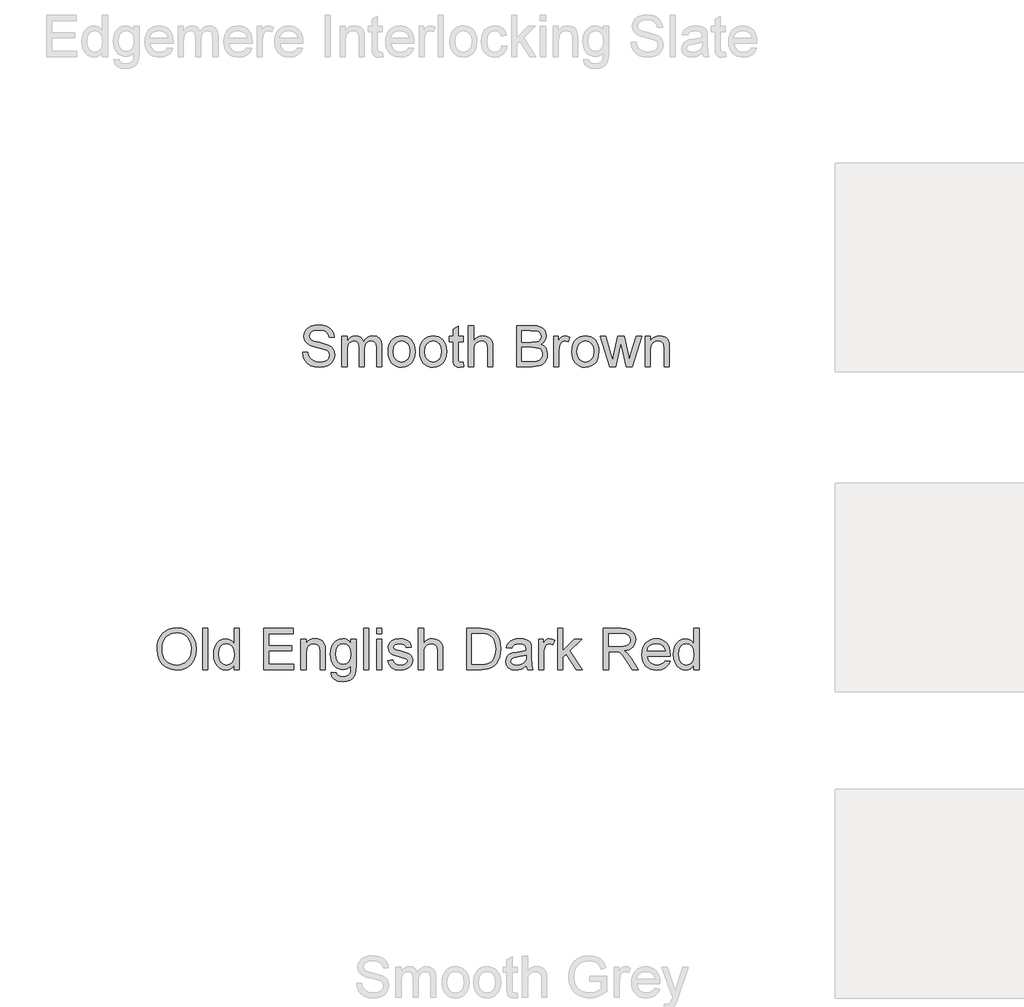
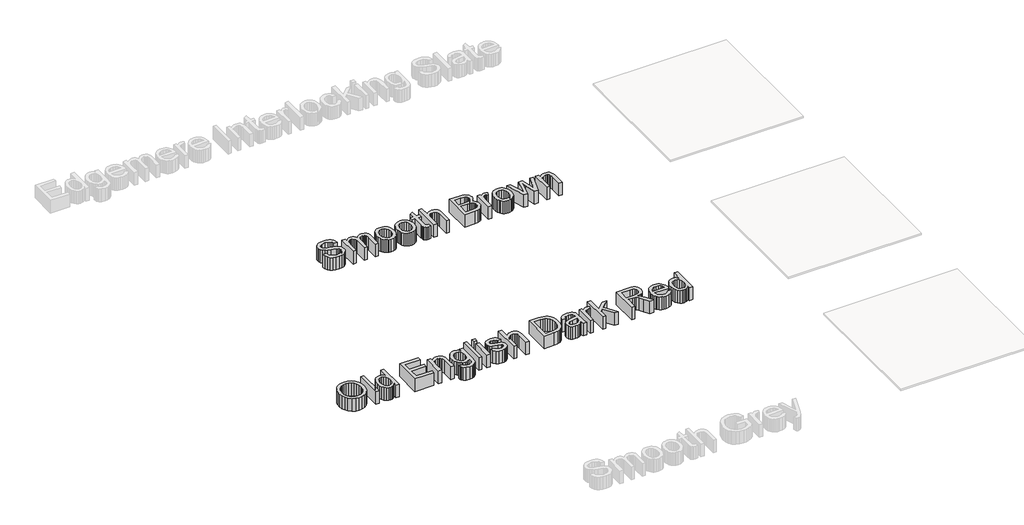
# One storey, part 2 of 8: 2 proxies.
"""IFC4 building model written with IfcOpenShell, lengths in millimetres."""

from ifc_helpers import new_model, si_unit, frame, origin, place, context, project, spatial, polyline, outline, extrude, element, save

model = new_model("IFC4")

# Units and contexts
model_context = context("Model", 3, world=origin())
ifc_project = project(units=[si_unit("LENGTHUNIT", "METRE", prefix="MILLI")], contexts=[model_context])

# Site, building, storey
site = spatial("IfcSite", under=ifc_project)
building = spatial("IfcBuilding", under=site)
storey = spatial("IfcBuildingStorey", under=building, Name="Marley Concrete Interlocking Tiles", Elevation=3000.0)

# Proxies
placement = place(None, origin())
element("IfcBuildingElementProxy", 1, Name="600mm Arial", ObjectType="600mm Arial", at=placement, inside=storey, context=model_context, shape_type="SweptSolid", body=[
    extrude(outline(polyline([(-14553.237659, 3230.5032727), (-14516.3145821, 3230.5032727), (-14512.0778033, 3210.013489), (-14504.4155436, 3193.5441381), (-14492.4624186, 3180.4732246), (-14475.3530436, 3170.1787535), (-14454.4395821, 3163.499066), (-14431.0741975, 3161.2725035), (-14410.503284, 3162.9582006), (-14392.4924667, 3168.0152919), (-14377.8981158, 3176.0200996), (-14367.5766013, 3186.5489458), (-14361.4377792, 3198.6372871), (-14359.3915052, 3211.3205804), (-14360.9239571, 3223.6793544), (-14365.5213129, 3234.3614458), (-14374.8602552, 3243.4750275), (-14390.6174667, 3251.1282727), (-14444.379486, 3265.2268304), (-14479.6709523, 3274.5567583), (-14502.2520821, 3283.435965), (-14520.6324908, 3295.85784), (-14533.6583321, 3310.9119265), (-14541.4197504, 3328.2737054), (-14544.0068898, 3347.6186573), (-14540.8067696, 3369.2442583), (-14531.206409, 3389.4095227), (-14515.4582119, 3406.5008688), (-14493.8145821, 3418.904715), (-14467.8350148, 3426.4497871), (-14439.0790052, 3428.9648112), (-14407.925159, 3426.3325996), (-14380.6655436, 3418.435965), (-14358.2737167, 3405.4371669), (-14341.723236, 3387.498465), (-14331.2484763, 3365.7376477), (-14327.0838129, 3341.2725035), (-14364.0068898, 3341.2725035), (-14370.785736, 3363.3037535), (-14384.9203513, 3379.2051958), (-14407.0056879, 3388.8325996), (-14437.6366975, 3392.0417342), (-14468.988861, 3388.8686573), (-14490.4972744, 3379.3494265), (-14502.9371783, 3365.3410131), (-14507.0838129, 3348.7003881), (-14504.145111, 3334.5116862), (-14495.3290052, 3323.0994265), (-14474.487659, 3312.8950996), (-14435.0405436, 3302.4744265), (-14369.7040052, 3283.9407727), (-14348.6553273, 3270.54534), (-14333.9708321, 3254.0128881), (-14325.3440292, 3234.5237054), (-14322.4684283, 3212.2580804), (-14325.7767215, 3189.4966621), (-14335.7016013, 3168.0874073), (-14351.8374186, 3149.6619265), (-14373.7785244, 3135.8518304), (-14400.1637408, 3127.2250275), (-14429.6318898, 3124.3494265), (-14465.8067696, 3127.4503881), (-14495.581409, 3136.7532727), (-14519.2983561, 3152.2941381), (-14537.300159, 3174.1090419), (-14548.8566494, 3200.6835612), (-14553.237659, 3230.5032727)])), frame((0.0, 0.0, 3000.0), z_axis=(0.0, 0.0, 1.0), x_axis=(1.0, 0.0, 0.0)), (0.0, 0.0, 1.0), 150.0),
    extrude(outline(polyline([(-14271.6991975, 3128.9648112), (-14271.6991975, 3345.8878881), (-14234.7761206, 3345.8878881), (-14234.7761206, 3310.1907727), (-14223.6703513, 3326.5880083), (-14209.3915052, 3339.4335612), (-14192.426361, 3347.7358448), (-14173.2616975, 3350.5032727), (-14152.7268417, 3347.6817583), (-14136.2665052, 3339.217215), (-14123.9708321, 3325.6685371), (-14115.9299667, 3307.5946188), (-14102.4714331, 3326.3671549), (-14087.1198706, 3339.7761092), (-14069.8752792, 3347.8214818), (-14050.737659, 3350.5032727), (-14022.9822504, 3346.0411333), (-14002.456409, 3332.654715), (-13989.7731158, 3309.983441), (-13985.5453513, 3277.6667342), (-13985.5453513, 3128.9648112), (-14022.4684283, 3128.9648112), (-14022.4684283, 3261.8013496), (-14025.893909, 3292.6306765), (-14030.707611, 3301.1312775), (-14038.2977552, 3307.810965), (-14048.0603754, 3312.1378881), (-14059.3915052, 3313.5801958), (-14079.39451, 3309.8842823), (-14095.7016013, 3298.7965419), (-14106.5459523, 3279.5597631), (-14110.160736, 3251.4167342), (-14110.160736, 3128.9648112), (-14147.0838129, 3128.9648112), (-14147.0838129, 3265.9119265), (-14149.2202311, 3286.7893304), (-14155.629486, 3301.6811573), (-14166.9065292, 3310.6054362), (-14183.6463129, 3313.5801958), (-14197.8710725, 3311.5970227), (-14210.9780436, 3305.6475035), (-14221.7953513, 3295.8758688), (-14229.1511206, 3282.4263496), (-14233.3698706, 3263.7664938), (-14234.7761206, 3238.3638496), (-14234.7761206, 3128.9648112), (-14271.6991975, 3128.9648112)])), frame((0.0, 0.0, 3000.0), z_axis=(0.0, 0.0, 1.0), x_axis=(1.0, 0.0, 0.0)), (0.0, 0.0, 1.0), 150.0),
    extrude(outline(polyline([(-13939.3915052, 3237.4263496), (-13937.3948105, 3265.5197991), (-13931.4047263, 3289.7280323), (-13921.4212528, 3310.0510491), (-13907.4443898, 3326.4888496), (-13893.3728754, 3336.9951597), (-13877.8410244, 3344.4996669), (-13860.8488369, 3349.0023713), (-13842.3963129, 3350.5032727), (-13822.0259703, 3348.6755984), (-13803.6072504, 3343.1925756), (-13787.140153, 3334.0542042), (-13772.6246783, 3321.2604842), (-13760.7774727, 3305.244108), (-13752.3151831, 3286.4377679), (-13747.2378093, 3264.8414638), (-13745.5453513, 3240.4551958), (-13748.5381398, 3203.1535131), (-13757.5165052, 3174.7580804), (-13772.2190292, 3153.4930563), (-13792.3842936, 3137.5825996), (-13816.3356158, 3127.6577198), (-13842.3963129, 3124.3494265), (-13863.0641314, 3126.17034), (-13881.6541254, 3131.6330804), (-13898.1662948, 3140.7376477), (-13912.6006398, 3153.4840419), (-13924.3216434, 3169.6559169), (-13932.6937888, 3189.0369265), (-13937.7170761, 3211.6270708), (-13939.3915052, 3237.4263496)]), holes=[polyline([(-13902.4684283, 3237.498465), (-13898.1955917, 3204.0819987), (-13885.3770821, 3180.2749073), (-13866.0862167, 3166.0231044), (-13842.3963129, 3161.2725035), (-13818.8145821, 3166.0501477), (-13799.5597744, 3180.3830804), (-13786.7412648, 3204.5056765), (-13782.4684283, 3238.6523112), (-13786.7683081, 3271.0952198), (-13799.6679475, 3294.5777919), (-13818.9497985, 3308.8295948), (-13842.3963129, 3313.5801958), (-13866.0862167, 3308.8476237), (-13885.3770821, 3294.6499073), (-13898.1955917, 3270.8969025), (-13902.4684283, 3237.498465)])]), frame((0.0, 0.0, 3000.0), z_axis=(0.0, 0.0, 1.0), x_axis=(1.0, 0.0, 0.0)), (0.0, 0.0, 1.0), 150.0),
    extrude(outline(polyline([(-13713.237659, 3237.4263496), (-13711.2409643, 3265.5197991), (-13705.2508802, 3289.7280323), (-13695.2674066, 3310.0510491), (-13681.2905436, 3326.4888496), (-13667.2190292, 3336.9951597), (-13651.6871783, 3344.4996669), (-13634.6949908, 3349.0023713), (-13616.2424667, 3350.5032727), (-13595.8721242, 3348.6755984), (-13577.4534042, 3343.1925756), (-13560.9863069, 3334.0542042), (-13546.4708321, 3321.2604842), (-13534.6236266, 3305.244108), (-13526.1613369, 3286.4377679), (-13521.0839631, 3264.8414638), (-13519.3915052, 3240.4551958), (-13522.3842936, 3203.1535131), (-13531.362659, 3174.7580804), (-13546.0651831, 3153.4930563), (-13566.2304475, 3137.5825996), (-13590.1817696, 3127.6577198), (-13616.2424667, 3124.3494265), (-13636.9102852, 3126.17034), (-13655.5002792, 3131.6330804), (-13672.0124487, 3140.7376477), (-13686.4467936, 3153.4840419), (-13698.1677973, 3169.6559169), (-13706.5399427, 3189.0369265), (-13711.5632299, 3211.6270708), (-13713.237659, 3237.4263496)]), holes=[polyline([(-13676.3145821, 3237.498465), (-13672.0417456, 3204.0819987), (-13659.223236, 3180.2749073), (-13639.9323706, 3166.0231044), (-13616.2424667, 3161.2725035), (-13592.660736, 3166.0501477), (-13573.4059283, 3180.3830804), (-13560.5874186, 3204.5056765), (-13556.3145821, 3238.6523112), (-13560.6144619, 3271.0952198), (-13573.5141013, 3294.5777919), (-13592.7959523, 3308.8295948), (-13616.2424667, 3313.5801958), (-13639.9323706, 3308.8476237), (-13659.223236, 3294.6499073), (-13672.0417456, 3270.8969025), (-13676.3145821, 3237.498465)])]), frame((0.0, 0.0, 3000.0), z_axis=(0.0, 0.0, 1.0), x_axis=(1.0, 0.0, 0.0)), (0.0, 0.0, 1.0), 150.0),
    extrude(outline(polyline([(-13399.3915052, 3159.7580804), (-13394.7761206, 3127.8830804), (-13422.3963129, 3124.3494265), (-13440.1186686, 3125.8818785), (-13453.3338129, 3130.4792342), (-13462.6727552, 3137.5645708), (-13468.7665052, 3146.560965), (-13472.1198706, 3162.0116862), (-13473.237659, 3188.4600035), (-13473.237659, 3308.9648112), (-13500.9299667, 3308.9648112), (-13500.9299667, 3345.8878881), (-13473.237659, 3345.8878881), (-13473.237659, 3398.6042342), (-13436.3145821, 3420.310965), (-13436.3145821, 3345.8878881), (-13399.3915052, 3345.8878881), (-13399.3915052, 3308.9648112), (-13436.3145821, 3308.9648112), (-13436.3145821, 3189.5417342), (-13434.3674667, 3170.5032727), (-13428.0573706, 3163.7604842), (-13415.473236, 3161.2725035), (-13399.3915052, 3159.7580804)])), frame((0.0, 0.0, 3000.0), z_axis=(0.0, 0.0, 1.0), x_axis=(1.0, 0.0, 0.0)), (0.0, 0.0, 1.0), 150.0),
    extrude(outline(polyline([(-13362.4684283, 3128.9648112), (-13362.4684283, 3424.3494265), (-13325.5453513, 3424.3494265), (-13325.5453513, 3315.7436573), (-13311.9831518, 3330.950989), (-13296.753284, 3341.8133688), (-13279.855748, 3348.3307967), (-13261.2905436, 3350.5032727), (-13238.988861, 3348.1324794), (-13219.8241975, 3341.0200996), (-13204.7340533, 3329.7250275), (-13194.6559283, 3314.8061573), (-13188.9768417, 3294.3073592), (-13187.0838129, 3266.2725035), (-13187.0838129, 3128.9648112), (-13224.0068898, 3128.9648112), (-13224.0068898, 3262.4503881), (-13226.9455917, 3285.5633688), (-13235.7616975, 3301.3926958), (-13249.9684283, 3310.5333208), (-13269.0790052, 3313.5801958), (-13284.6829715, 3311.5249073), (-13299.331409, 3305.3590419), (-13311.4648225, 3295.6775515), (-13319.5237167, 3283.0753881), (-13324.0399427, 3266.32659), (-13325.5453513, 3244.2051958), (-13325.5453513, 3128.9648112), (-13362.4684283, 3128.9648112)])), frame((0.0, 0.0, 3000.0), z_axis=(0.0, 0.0, 1.0), x_axis=(1.0, 0.0, 0.0)), (0.0, 0.0, 1.0), 150.0),
    extrude(outline(polyline([(-13016.3145821, 3128.9648112), (-13016.3145821, 3424.3494265), (-12903.598236, 3424.3494265), (-12872.597635, 3422.1769506), (-12848.393909, 3415.6595227), (-12829.8422263, 3404.6348833), (-12815.7977552, 3388.9407727), (-12806.9546061, 3370.4792342), (-12804.0068898, 3351.1523112), (-12806.4858561, 3333.3668544), (-12813.9227552, 3316.6450996), (-12826.3716735, 3302.014691), (-12843.8866975, 3290.5032727), (-12822.9642215, 3279.5777919), (-12807.504486, 3262.9551958), (-12797.9582119, 3241.7352438), (-12794.7761206, 3217.0176958), (-12796.9485965, 3196.419739), (-12803.4660244, 3177.3181765), (-12813.1925869, 3161.0741862), (-12824.9924667, 3149.0489458), (-12839.4425869, 3140.3410131), (-12857.1198706, 3134.0489458), (-12904.4636206, 3128.9648112), (-13016.3145821, 3128.9648112)]), holes=[polyline([(-12979.3915052, 3165.8878881), (-12903.6703513, 3165.8878881), (-12876.2665052, 3167.3301958), (-12853.081409, 3175.3710612), (-12837.7208321, 3191.7773112), (-12833.2046061, 3203.3698592), (-12831.6991975, 3216.6571188), (-12833.4660244, 3232.0898112), (-12838.7665052, 3245.3590419), (-12848.0243177, 3255.7346429), (-12861.6631398, 3262.4864458), (-12880.9810485, 3266.1913737), (-12907.2761206, 3267.4263496), (-12979.3915052, 3267.4263496), (-12979.3915052, 3165.8878881)]), polyline([(-12979.3915052, 3304.3494265), (-12911.9636206, 3304.3494265), (-12872.5886206, 3307.5225035), (-12858.8055677, 3312.9942583), (-12848.8987167, 3321.1883688), (-12842.9221542, 3331.9786333), (-12840.9299667, 3345.2388496), (-12842.7869379, 3358.1114458), (-12848.3578513, 3369.3253881), (-12857.3903033, 3378.0783929), (-12869.6318898, 3383.5681765), (-12917.0838129, 3387.4263496), (-12979.3915052, 3387.4263496), (-12979.3915052, 3304.3494265)])]), frame((0.0, 0.0, 3000.0), z_axis=(0.0, 0.0, 1.0), x_axis=(1.0, 0.0, 0.0)), (0.0, 0.0, 1.0), 150.0),
    extrude(outline(polyline([(-12748.6222744, 3128.9648112), (-12748.6222744, 3345.8878881), (-12716.3145821, 3345.8878881), (-12716.3145821, 3313.7965419), (-12704.379486, 3332.4023112), (-12693.3818898, 3343.3638496), (-12682.348236, 3348.7184169), (-12670.3049667, 3350.5032727), (-12651.9155436, 3347.654715), (-12633.237659, 3339.1090419), (-12645.5693898, 3306.0080804), (-12658.550159, 3311.6871669), (-12671.5309283, 3313.5801958), (-12682.5555677, 3311.7592823), (-12692.4083321, 3306.2965419), (-12700.3680677, 3297.6066381), (-12705.7136206, 3286.1042342), (-12710.2028033, 3265.4792342), (-12711.6991975, 3242.9792342), (-12711.6991975, 3128.9648112), (-12748.6222744, 3128.9648112)])), frame((0.0, 0.0, 3000.0), z_axis=(0.0, 0.0, 1.0), x_axis=(1.0, 0.0, 0.0)), (0.0, 0.0, 1.0), 150.0),
    extrude(outline(polyline([(-12619.3915052, 3237.4263496), (-12617.3948105, 3265.5197991), (-12611.4047263, 3289.7280323), (-12601.4212528, 3310.0510491), (-12587.4443898, 3326.4888496), (-12573.3728754, 3336.9951597), (-12557.8410244, 3344.4996669), (-12540.8488369, 3349.0023713), (-12522.3963129, 3350.5032727), (-12502.0259703, 3348.6755984), (-12483.6072504, 3343.1925756), (-12467.140153, 3334.0542042), (-12452.6246783, 3321.2604842), (-12440.7774727, 3305.244108), (-12432.3151831, 3286.4377679), (-12427.2378093, 3264.8414638), (-12425.5453513, 3240.4551958), (-12428.5381398, 3203.1535131), (-12437.5165052, 3174.7580804), (-12452.2190292, 3153.4930563), (-12472.3842936, 3137.5825996), (-12496.3356158, 3127.6577198), (-12522.3963129, 3124.3494265), (-12543.0641314, 3126.17034), (-12561.6541254, 3131.6330804), (-12578.1662948, 3140.7376477), (-12592.6006398, 3153.4840419), (-12604.3216434, 3169.6559169), (-12612.6937888, 3189.0369265), (-12617.7170761, 3211.6270708), (-12619.3915052, 3237.4263496)]), holes=[polyline([(-12582.4684283, 3237.498465), (-12578.1955917, 3204.0819987), (-12565.3770821, 3180.2749073), (-12546.0862167, 3166.0231044), (-12522.3963129, 3161.2725035), (-12498.8145821, 3166.0501477), (-12479.5597744, 3180.3830804), (-12466.7412648, 3204.5056765), (-12462.4684283, 3238.6523112), (-12466.7683081, 3271.0952198), (-12479.6679475, 3294.5777919), (-12498.9497985, 3308.8295948), (-12522.3963129, 3313.5801958), (-12546.0862167, 3308.8476237), (-12565.3770821, 3294.6499073), (-12578.1955917, 3270.8969025), (-12582.4684283, 3237.498465)])]), frame((0.0, 0.0, 3000.0), z_axis=(0.0, 0.0, 1.0), x_axis=(1.0, 0.0, 0.0)), (0.0, 0.0, 1.0), 150.0),
    extrude(outline(polyline([(-12348.0213129, 3128.9648112), (-12414.0068898, 3345.8878881), (-12375.6415052, 3345.8878881), (-12338.2136206, 3219.3253881), (-12327.035736, 3174.1090419), (-12317.8770821, 3217.6667342), (-12288.0934283, 3345.8878881), (-12244.1030436, 3345.8878881), (-12214.4636206, 3218.0273112), (-12206.3145821, 3178.5801958), (-12194.6318898, 3220.1907727), (-12157.1318898, 3345.8878881), (-12118.6222744, 3345.8878881), (-12185.112659, 3128.9648112), (-12229.7520821, 3128.9648112), (-12258.0934283, 3256.1763496), (-12266.3145821, 3295.8398112), (-12302.8770821, 3128.9648112), (-12348.0213129, 3128.9648112)])), frame((0.0, 0.0, 3000.0), z_axis=(0.0, 0.0, 1.0), x_axis=(1.0, 0.0, 0.0)), (0.0, 0.0, 1.0), 150.0),
    extrude(outline(polyline([(-12093.237659, 3128.9648112), (-12093.237659, 3345.8878881), (-12056.3145821, 3345.8878881), (-12056.3145821, 3315.5994265), (-12043.4870581, 3330.8698592), (-12028.081409, 3341.7773112), (-12010.097635, 3348.3217823), (-11989.535736, 3350.5032727), (-11971.3356158, 3348.7454602), (-11954.6679475, 3343.4720227), (-11940.7677071, 3335.3410131), (-11930.8698706, 3325.0104842), (-11919.800159, 3297.8590419), (-11917.8530436, 3262.1619265), (-11917.8530436, 3128.9648112), (-11954.7761206, 3128.9648112), (-11954.7761206, 3257.185965), (-11959.0309283, 3289.8542342), (-11964.9173465, 3299.5807967), (-11974.066986, 3307.1258688), (-11985.7947504, 3311.966614), (-11999.4155436, 3313.5801958), (-12021.0411446, 3309.9563977), (-12039.4756398, 3299.0850035), (-12046.8426771, 3290.2103039), (-12052.1048465, 3278.0813977), (-12056.3145821, 3244.060965), (-12056.3145821, 3128.9648112), (-12093.237659, 3128.9648112)])), frame((0.0, 0.0, 3000.0), z_axis=(0.0, 0.0, 1.0), x_axis=(1.0, 0.0, 0.0)), (0.0, 0.0, 1.0), 150.0),
])
element("IfcBuildingElementProxy", 2, Name="600mm Arial", ObjectType="600mm Arial", at=placement, inside=storey, context=model_context, shape_type="SweptSolid", body=[
    extrude(outline(polyline([(-15600.1523614, 1096.2774034), (-15597.6914239, 1130.9243385), (-15590.3086114, 1161.595913), (-15578.0039239, 1188.292127), (-15560.7773614, 1211.0129803), (-15539.6610754, 1229.1545068), (-15515.6872172, 1242.11274), (-15488.8557869, 1249.8876799), (-15459.1667845, 1252.4793265), (-15420.4227941, 1247.611538), (-15385.6812076, 1233.0081726), (-15356.8350537, 1209.6968746), (-15335.7773614, 1178.705288), (-15322.9047653, 1141.5298073), (-15318.6138999, 1099.6668265), (-15323.1301258, 1057.2449515), (-15336.6788037, 1019.5466342), (-15358.5117364, 988.5009611), (-15387.8807268, 966.0370188), (-15422.3248374, 952.4072111), (-15459.3831307, 947.8639419), (-15498.722073, 952.8849755), (-15533.6619768, 967.9480765), (-15562.4360153, 991.6920669), (-15583.2773614, 1022.7557688), (-15595.9336114, 1058.4979563), (-15600.1523614, 1096.2774034)]), holes=[polyline([(-15563.2292845, 1095.9168265), (-15561.3835814, 1071.4381606), (-15555.846472, 1049.7088938), (-15546.6179564, 1030.729026), (-15533.6980345, 1014.4985573), (-15517.9926559, 1001.4997592), (-15500.4077701, 992.2149034), (-15480.943377, 986.64399), (-15459.5994768, 984.7870188), (-15437.8904924, 986.6620188), (-15418.1962316, 992.2870188), (-15400.5166944, 1001.6620188), (-15384.8518807, 1014.7870188), (-15372.0266102, 1031.3600356), (-15362.8657028, 1051.0790861), (-15357.3691583, 1073.9441702), (-15355.5369768, 1099.955288), (-15358.673996, 1132.6415861), (-15368.0850537, 1160.892788), (-15383.5267605, 1183.9967544), (-15404.7557268, 1201.2413457), (-15430.3657028, 1211.9775236), (-15458.9504383, 1215.5562496), (-15479.5529023, 1213.8322412), (-15498.6679864, 1208.6602159), (-15516.2956908, 1200.0401738), (-15532.4360153, 1187.972115), (-15545.9080706, 1171.8746089), (-15555.5309672, 1151.1662255), (-15561.3047052, 1125.8469647), (-15563.2292845, 1095.9168265)])]), frame((0.0, 0.0, 3000.0), z_axis=(0.0, 0.0, 1.0), x_axis=(1.0, 0.0, 0.0)), (0.0, 0.0, 1.0), 150.0),
    extrude(outline(polyline([(-15272.4600537, 952.4793265), (-15272.4600537, 1247.8639419), (-15235.5369768, 1247.8639419), (-15235.5369768, 952.4793265), (-15272.4600537, 952.4793265)])), frame((0.0, 0.0, 3000.0), z_axis=(0.0, 0.0, 1.0), x_axis=(1.0, 0.0, 0.0)), (0.0, 0.0, 1.0), 150.0),
    extrude(outline(polyline([(-15046.3062076, 952.4793265), (-15046.3062076, 987.3110573), (-15057.3533831, 970.0529443), (-15070.7352941, 957.7257207), (-15086.4519408, 950.3293866), (-15104.503323, 947.8639419), (-15128.3735153, 951.4336534), (-15150.2244768, 962.142788), (-15168.722073, 979.2431486), (-15182.5321691, 1001.986538), (-15191.1319287, 1029.4534851), (-15193.9985153, 1060.7245188), (-15191.3572893, 1091.6079323), (-15183.4336114, 1119.4985573), (-15170.236496, 1142.8098553), (-15151.7749576, 1159.955288), (-15129.4462316, 1170.502163), (-15104.6475537, 1174.017788), (-15086.5826499, 1171.502764), (-15070.6090922, 1163.9576919), (-15057.0694287, 1152.3921871), (-15046.3062076, 1137.815865), (-15046.3062076, 1247.8639419), (-15009.3831307, 1247.8639419), (-15009.3831307, 952.4793265), (-15046.3062076, 952.4793265)]), holes=[polyline([(-15157.0754383, 1060.8687496), (-15152.9107749, 1027.4703121), (-15140.4167845, 1003.7173073), (-15122.2617364, 989.5195909), (-15101.1138999, 984.7870188), (-15079.9750778, 989.3032448), (-15062.2797653, 1002.8519226), (-15050.299597, 1025.6854563), (-15046.3062076, 1058.0562496), (-15050.3717124, 1093.4468746), (-15062.5682268, 1117.9841342), (-15080.7142605, 1132.3170669), (-15102.628323, 1137.0947111), (-15123.9925057, 1132.5063698), (-15141.4985153, 1118.7413457), (-15153.1812076, 1095.096514), (-15157.0754383, 1060.8687496)])]), frame((0.0, 0.0, 3000.0), z_axis=(0.0, 0.0, 1.0), x_axis=(1.0, 0.0, 0.0)), (0.0, 0.0, 1.0), 150.0),
    extrude(outline(polyline([(-14833.9985153, 952.4793265), (-14833.9985153, 1247.8639419), (-14621.690823, 1247.8639419), (-14621.690823, 1210.940865), (-14797.0754383, 1210.940865), (-14797.0754383, 1123.2485573), (-14630.9215922, 1123.2485573), (-14630.9215922, 1086.3254803), (-14797.0754383, 1086.3254803), (-14797.0754383, 989.4024034), (-14617.0754383, 989.4024034), (-14617.0754383, 952.4793265), (-14833.9985153, 952.4793265)])), frame((0.0, 0.0, 3000.0), z_axis=(0.0, 0.0, 1.0), x_axis=(1.0, 0.0, 0.0)), (0.0, 0.0, 1.0), 150.0),
    extrude(outline(polyline([(-14566.3062076, 952.4793265), (-14566.3062076, 1169.4024034), (-14529.3831307, 1169.4024034), (-14529.3831307, 1139.1139419), (-14516.5556066, 1154.3843746), (-14501.1499576, 1165.2918265), (-14483.1661835, 1171.8362976), (-14462.6042845, 1174.017788), (-14444.4041643, 1172.2599755), (-14427.736496, 1166.986538), (-14413.8362557, 1158.8555284), (-14403.9384191, 1148.5249996), (-14392.8687076, 1121.3735573), (-14390.9215922, 1085.6764419), (-14390.9215922, 952.4793265), (-14427.8446691, 952.4793265), (-14427.8446691, 1080.7004803), (-14432.0994768, 1113.3687496), (-14437.9858951, 1123.0953121), (-14447.1355345, 1130.6403842), (-14458.8632989, 1135.4811294), (-14472.4840922, 1137.0947111), (-14494.1096932, 1133.470913), (-14512.5441883, 1122.5995188), (-14519.9112256, 1113.7248193), (-14525.1733951, 1101.595913), (-14529.3831307, 1067.5754803), (-14529.3831307, 952.4793265), (-14566.3062076, 952.4793265)])), frame((0.0, 0.0, 3000.0), z_axis=(0.0, 0.0, 1.0), x_axis=(1.0, 0.0, 0.0)), (0.0, 0.0, 1.0), 150.0),
    extrude(outline(polyline([(-14349.3831307, 934.017788), (-14312.4600537, 929.4024034), (-14308.3855345, 917.8639419), (-14300.4888999, 909.9312496), (-14284.9660633, 903.7653842), (-14264.6475537, 901.7100957), (-14242.9768807, 904.0358169), (-14226.8590922, 911.0129803), (-14215.6812076, 922.190865), (-14208.830246, 937.1187496), (-14206.3062076, 980.1716342), (-14218.5928662, 968.0562496), (-14232.3038037, 959.4024034), (-14247.4390201, 954.2100957), (-14263.9985153, 952.4793265), (-14284.2426559, 954.4940501), (-14302.0664239, 960.5382207), (-14317.4698194, 970.6118385), (-14330.4528422, 984.7149034), (-14340.7540742, 1001.6349755), (-14348.112097, 1020.159615), (-14353.9985153, 1062.0225957), (-14351.3572893, 1091.8332928), (-14343.4336114, 1119.2461534), (-14330.5069287, 1142.4763217), (-14312.8566883, 1159.7389419), (-14291.0868566, 1170.4480765), (-14265.8013999, 1174.017788), (-14248.5342725, 1171.9985573), (-14232.862698, 1165.940865), (-14218.7866763, 1155.8447111), (-14206.3062076, 1141.7100957), (-14206.3062076, 1169.4024034), (-14169.3831307, 1169.4024034), (-14169.3831307, 982.1187496), (-14171.9071691, 938.8765621), (-14179.4792845, 910.3999996), (-14192.5231547, 891.5147832), (-14211.4624576, 877.0466342), (-14235.8825297, 867.8519226), (-14265.3687076, 864.7870188), (-14299.7226739, 869.1049275), (-14326.7749576, 882.0586534), (-14336.9635093, 891.7829623), (-14344.127722, 903.6842544), (-14348.2675958, 917.7625296), (-14349.3831307, 934.017788)]), holes=[polyline([(-14317.0754383, 1064.5466342), (-14313.1361355, 1030.6794467), (-14301.3182268, 1007.3951919), (-14283.5507989, 993.9006005), (-14261.7629383, 989.4024034), (-14240.1373374, 993.8735573), (-14222.2797653, 1007.2870188), (-14210.299597, 1030.2737976), (-14206.3062076, 1063.4649034), (-14210.4167845, 1095.4751198), (-14222.7485153, 1118.5249996), (-14240.8675057, 1132.4522832), (-14262.3398614, 1137.0947111), (-14283.424597, 1132.5243986), (-14301.1018807, 1118.8134611), (-14313.0820489, 1096.1061294), (-14317.0754383, 1064.5466342)])]), frame((0.0, 0.0, 3000.0), z_axis=(0.0, 0.0, 1.0), x_axis=(1.0, 0.0, 0.0)), (0.0, 0.0, 1.0), 150.0),
    extrude(outline(polyline([(-14113.9985153, 952.4793265), (-14113.9985153, 1247.8639419), (-14077.0754383, 1247.8639419), (-14077.0754383, 952.4793265), (-14113.9985153, 952.4793265)])), frame((0.0, 0.0, 3000.0), z_axis=(0.0, 0.0, 1.0), x_axis=(1.0, 0.0, 0.0)), (0.0, 0.0, 1.0), 150.0),
    extrude(outline(polyline([(-14021.690823, 1210.940865), (-14021.690823, 1247.8639419), (-13984.767746, 1247.8639419), (-13984.767746, 1210.940865), (-14021.690823, 1210.940865)])), frame((0.0, 0.0, 3000.0), z_axis=(0.0, 0.0, 1.0), x_axis=(1.0, 0.0, 0.0)), (0.0, 0.0, 1.0), 150.0),
    extrude(outline(polyline([(-14021.690823, 952.4793265), (-14021.690823, 1169.4024034), (-13984.767746, 1169.4024034), (-13984.767746, 952.4793265), (-14021.690823, 952.4793265)])), frame((0.0, 0.0, 3000.0), z_axis=(0.0, 0.0, 1.0), x_axis=(1.0, 0.0, 0.0)), (0.0, 0.0, 1.0), 150.0),
    extrude(outline(polyline([(-13943.2292845, 1017.0947111), (-13906.3062076, 1021.7100957), (-13900.4828903, 1005.9168265), (-13889.2148614, 994.3062496), (-13872.4300057, 987.1668265), (-13850.0562076, 984.7870188), (-13827.9528422, 986.9685092), (-13812.4119768, 993.5129803), (-13803.2172653, 1002.9961534), (-13800.1523614, 1013.9937496), (-13803.2352941, 1023.4048073), (-13812.4840922, 1030.580288), (-13850.4888999, 1041.1091342), (-13906.0898614, 1059.174038), (-13920.1613758, 1068.2515621), (-13930.3566883, 1080.267788), (-13936.549597, 1094.45649), (-13938.6138999, 1110.0514419), (-13936.955246, 1124.3573313), (-13931.9792845, 1137.5634611), (-13924.1367364, 1149.1469948), (-13913.878323, 1158.5850957), (-13890.4047653, 1169.5105765), (-13858.6379383, 1174.017788), (-13834.6054864, 1172.205889), (-13813.7100537, 1166.7701919), (-13796.9071691, 1158.2425476), (-13785.1523614, 1147.1548073), (-13777.3638999, 1132.6866582), (-13772.4600537, 1114.017788), (-13809.3831307, 1109.4024034), (-13814.0435874, 1121.0219948), (-13823.2653422, 1129.7749996), (-13837.1385393, 1135.2647832), (-13855.753323, 1137.0947111), (-13876.955246, 1135.345913), (-13891.0898614, 1130.0995188), (-13899.0405826, 1122.5274034), (-13901.690823, 1113.8014419), (-13897.2917845, 1103.0562496), (-13883.517746, 1094.9072111), (-13851.7148614, 1087.0466342), (-13797.5201499, 1069.6668265), (-13783.205246, 1061.3555284), (-13772.3518807, 1049.9793265), (-13765.5099335, 1035.502163), (-13763.2292845, 1017.8879803), (-13765.9065682, 999.6788457), (-13773.9384191, 982.5514419), (-13787.018347, 967.8489178), (-13804.8398614, 956.9144226), (-13826.3663037, 950.1265621), (-13850.5610153, 947.8639419), (-13887.7905826, 952.2269226), (-13914.9600537, 965.315865), (-13933.097073, 986.986538), (-13943.2292845, 1017.0947111)])), frame((0.0, 0.0, 3000.0), z_axis=(0.0, 0.0, 1.0), x_axis=(1.0, 0.0, 0.0)), (0.0, 0.0, 1.0), 150.0),
    extrude(outline(polyline([(-13721.690823, 952.4793265), (-13721.690823, 1247.8639419), (-13684.767746, 1247.8639419), (-13684.767746, 1139.2581726), (-13671.2055465, 1154.4655044), (-13655.9756787, 1165.3278842), (-13639.0781427, 1171.8453121), (-13620.5129383, 1174.017788), (-13598.2112557, 1171.6469948), (-13579.0465922, 1164.534615), (-13563.956448, 1153.2395428), (-13553.878323, 1138.3206726), (-13548.1992364, 1117.8218746), (-13546.3062076, 1089.7870188), (-13546.3062076, 952.4793265), (-13583.2292845, 952.4793265), (-13583.2292845, 1085.9649034), (-13586.1679864, 1109.0778842), (-13594.9840922, 1124.9072111), (-13609.190823, 1134.0478361), (-13628.3013999, 1137.0947111), (-13643.9053662, 1135.0394226), (-13658.5538037, 1128.8735573), (-13670.6872172, 1119.1920669), (-13678.7461114, 1106.5899034), (-13683.2623374, 1089.8411053), (-13684.767746, 1067.7197111), (-13684.767746, 952.4793265), (-13721.690823, 952.4793265)])), frame((0.0, 0.0, 3000.0), z_axis=(0.0, 0.0, 1.0), x_axis=(1.0, 0.0, 0.0)), (0.0, 0.0, 1.0), 150.0),
    extrude(outline(polyline([(-13375.5369768, 952.4793265), (-13375.5369768, 1247.8639419), (-13273.6379383, 1247.8639419), (-13220.9215922, 1243.6091342), (-13197.3759191, 1235.4060092), (-13177.5081307, 1222.4793265), (-13157.081448, 1199.9793265), (-13142.5321691, 1171.9985573), (-13133.8242364, 1139.0778842), (-13130.9215922, 1101.7581726), (-13132.8867364, 1070.0544467), (-13138.7821691, 1042.1548073), (-13147.7605345, 1018.4018025), (-13158.9744768, 999.1379803), (-13171.8831307, 983.9306486), (-13185.9456307, 972.347115), (-13202.0904624, 963.7563698), (-13221.2461114, 957.5274034), (-13268.7340922, 952.4793265), (-13375.5369768, 952.4793265)]), holes=[polyline([(-13338.6138999, 989.4024034), (-13273.2773614, 989.4024034), (-13246.252121, 990.736538), (-13225.753323, 994.7389419), (-13210.284573, 1001.17524), (-13198.3494768, 1009.8110573), (-13185.5219528, 1025.7936294), (-13175.8855345, 1046.4817303), (-13169.8548855, 1071.9655044), (-13167.8446691, 1102.3350957), (-13171.783972, 1142.5754803), (-13183.6018807, 1172.2870188), (-13201.0628182, 1192.6956726), (-13221.9312076, 1205.0274034), (-13243.1691883, 1209.4624996), (-13274.2869768, 1210.940865), (-13338.6138999, 1210.940865), (-13338.6138999, 989.4024034)])]), frame((0.0, 0.0, 3000.0), z_axis=(0.0, 0.0, 1.0), x_axis=(1.0, 0.0, 0.0)), (0.0, 0.0, 1.0), 150.0),
    extrude(outline(polyline([(-12946.3062076, 980.1716342), (-12963.9474335, 965.0454323), (-12982.111496, 955.1475957), (-13001.2130585, 949.6848553), (-13021.6667845, 947.8639419), (-13052.5231547, 952.2449515), (-13075.284573, 965.3879803), (-13089.3200297, 985.345913), (-13093.9985153, 1010.1716342), (-13092.2316883, 1025.4781246), (-13086.9312076, 1039.378365), (-13078.7551258, 1051.2774034), (-13068.361496, 1060.580288), (-13042.5081307, 1072.6956726), (-13010.5610153, 1078.2485573), (-12972.8086114, 1084.0899034), (-12946.5225537, 1090.940865), (-12946.3062076, 1099.1620188), (-12948.8482749, 1115.6403842), (-12956.4744768, 1126.4216342), (-12973.5297653, 1134.4264419), (-12997.2917845, 1137.0947111), (-13019.2869768, 1135.3188698), (-13034.6475537, 1129.9913457), (-13045.1223133, 1120.1385813), (-13052.4600537, 1104.7870188), (-13089.3831307, 1109.4024034), (-13082.9738758, 1129.5947111), (-13073.409573, 1145.4600957), (-13059.7977941, 1157.5935092), (-13041.2461114, 1166.5899034), (-13018.5568085, 1172.1608169), (-12992.5321691, 1174.017788), (-12967.5712316, 1172.377163), (-12947.784573, 1167.455288), (-12932.8657028, 1160.0544467), (-12922.5081307, 1150.9769226), (-12915.6391403, 1139.7539659), (-12911.1860153, 1125.9168265), (-12909.3831307, 1093.6091342), (-12909.3831307, 1047.6716342), (-12907.5081307, 983.5249996), (-12900.1523614, 952.4793265), (-12937.0754383, 952.4793265), (-12946.3062076, 980.1716342)]), holes=[polyline([(-12946.3062076, 1054.017788), (-13005.8735153, 1042.6956726), (-13037.6403422, 1036.7100957), (-13052.0273614, 1026.9745188), (-13057.0754383, 1012.767788), (-13054.3260393, 1001.7882207), (-13046.0778422, 992.7918265), (-13032.5111355, 986.7882207), (-13013.8062076, 984.7870188), (-12993.9744768, 986.9955525), (-12976.4504383, 993.6211534), (-12962.2437076, 1003.3837736), (-12952.3638999, 1015.003365), (-12947.9828903, 1026.9745188), (-12946.5225537, 1043.5610573), (-12946.3062076, 1054.017788)])]), frame((0.0, 0.0, 3000.0), z_axis=(0.0, 0.0, 1.0), x_axis=(1.0, 0.0, 0.0)), (0.0, 0.0, 1.0), 150.0),
    extrude(outline(polyline([(-12858.6138999, 952.4793265), (-12858.6138999, 1169.4024034), (-12826.3062076, 1169.4024034), (-12826.3062076, 1137.3110573), (-12814.3711114, 1155.9168265), (-12803.3735153, 1166.878365), (-12792.3398614, 1172.2329323), (-12780.2965922, 1174.017788), (-12761.9071691, 1171.1692303), (-12743.2292845, 1162.6235573), (-12755.5610153, 1129.5225957), (-12768.5417845, 1135.2016823), (-12781.5225537, 1137.0947111), (-12792.5471932, 1135.2737976), (-12802.3999576, 1129.8110573), (-12810.3596932, 1121.1211534), (-12815.705246, 1109.6187496), (-12820.1944287, 1088.9937496), (-12821.690823, 1066.4937496), (-12821.690823, 952.4793265), (-12858.6138999, 952.4793265)])), frame((0.0, 0.0, 3000.0), z_axis=(0.0, 0.0, 1.0), x_axis=(1.0, 0.0, 0.0)), (0.0, 0.0, 1.0), 150.0),
    extrude(outline(polyline([(-12720.1523614, 952.4793265), (-12720.1523614, 1247.8639419), (-12683.2292845, 1247.8639419), (-12683.2292845, 1089.1379803), (-12600.440823, 1169.4024034), (-12549.3831307, 1169.4024034), (-12633.1812076, 1088.128365), (-12544.767746, 952.4793265), (-12587.892746, 952.4793265), (-12659.6475537, 1062.455288), (-12683.2292845, 1039.5947111), (-12683.2292845, 952.4793265), (-12720.1523614, 952.4793265)])), frame((0.0, 0.0, 3000.0), z_axis=(0.0, 0.0, 1.0), x_axis=(1.0, 0.0, 0.0)), (0.0, 0.0, 1.0), 150.0),
    extrude(outline(polyline([(-12392.4600537, 952.4793265), (-12392.4600537, 1247.8639419), (-12265.1763999, 1247.8639419), (-12230.9666643, 1245.8717544), (-12206.0778422, 1239.8951919), (-12187.8867364, 1228.861538), (-12173.7701499, 1211.6980765), (-12164.7106547, 1190.4150236), (-12161.690823, 1167.0225957), (-12166.6938278, 1137.924038), (-12181.7028422, 1113.8014419), (-12193.0722833, 1103.9712135), (-12207.1685874, 1096.1151438), (-12243.5417845, 1086.3254803), (-12222.5562076, 1070.5322111), (-12192.628323, 1032.5274034), (-12143.3735153, 952.4793265), (-12186.2821691, 952.4793265), (-12224.7196691, 1013.705288), (-12252.4840922, 1054.2341342), (-12271.9913037, 1073.3807688), (-12289.5513999, 1080.4120188), (-12310.9696691, 1081.7100957), (-12355.5369768, 1081.7100957), (-12355.5369768, 952.4793265), (-12392.4600537, 952.4793265)]), holes=[polyline([(-12355.5369768, 1118.6331726), (-12272.892746, 1118.6331726), (-12249.1577701, 1119.940264), (-12230.7413037, 1123.861538), (-12216.877121, 1130.658413), (-12206.798996, 1140.5923073), (-12200.6601739, 1152.6085332), (-12198.6138999, 1165.6524034), (-12202.5171451, 1183.6632207), (-12214.2268807, 1198.1764419), (-12234.3741162, 1207.7497592), (-12263.5898614, 1210.940865), (-12355.5369768, 1210.940865), (-12355.5369768, 1118.6331726)])]), frame((0.0, 0.0, 3000.0), z_axis=(0.0, 0.0, 1.0), x_axis=(1.0, 0.0, 0.0)), (0.0, 0.0, 1.0), 150.0),
    extrude(outline(polyline([(-11949.815823, 1017.0947111), (-11913.6138999, 1012.4793265), (-11926.6577701, 985.2016823), (-11947.472073, 964.8110573), (-11975.5880585, 952.1007207), (-12010.5369768, 947.8639419), (-12033.4471331, 949.6916162), (-12053.8602941, 955.174639), (-12071.77646, 964.3130104), (-12087.1956307, 977.1067303), (-12099.5949696, 993.1997291), (-12108.4516403, 1012.2359371), (-12113.7656427, 1034.2153541), (-12115.5369768, 1059.1379803), (-12113.7476138, 1084.9057087), (-12108.3795249, 1107.6175476), (-12099.43271, 1127.2734972), (-12086.9071691, 1143.8735573), (-12071.5285633, 1157.0616582), (-12054.0225537, 1166.4817303), (-12034.3891403, 1172.1337736), (-12012.628323, 1174.017788), (-11991.568377, 1172.1382808), (-11972.5231547, 1166.4997592), (-11955.4926559, 1157.1022231), (-11940.4768807, 1143.9456726), (-11928.2195189, 1127.3816702), (-11919.4642605, 1107.7617784), (-11914.2111054, 1085.0859972), (-11912.4600537, 1059.3543265), (-11912.6763999, 1049.4024034), (-12078.6138999, 1049.4024034), (-12072.2226739, 1021.7641823), (-12057.3759191, 1001.4456726), (-12035.9486355, 988.9516823), (-12009.815823, 984.7870188), (-11990.1643807, 986.7161053), (-11973.6138999, 992.503365), (-11960.1643807, 1002.5093746), (-11949.815823, 1017.0947111)]), holes=[polyline([(-12078.6138999, 1086.3254803), (-11949.3831307, 1086.3254803), (-11954.377121, 1105.8326919), (-11964.1667845, 1119.7870188), (-11985.6932268, 1132.767788), (-12012.7725537, 1137.0947111), (-12037.6613758, 1133.6421871), (-12058.2413037, 1123.284615), (-12072.5471932, 1107.1397832), (-12078.6138999, 1086.3254803)])]), frame((0.0, 0.0, 3000.0), z_axis=(0.0, 0.0, 1.0), x_axis=(1.0, 0.0, 0.0)), (0.0, 0.0, 1.0), 150.0),
    extrude(outline(polyline([(-11741.690823, 952.4793265), (-11741.690823, 987.3110573), (-11752.7379984, 970.0529443), (-11766.1199095, 957.7257207), (-11781.8365561, 950.3293866), (-11799.8879383, 947.8639419), (-11823.7581307, 951.4336534), (-11845.6090922, 962.142788), (-11864.1066883, 979.2431486), (-11877.9167845, 1001.986538), (-11886.5165441, 1029.4534851), (-11889.3831307, 1060.7245188), (-11886.7419047, 1091.6079323), (-11878.8182268, 1119.4985573), (-11865.6211114, 1142.8098553), (-11847.159573, 1159.955288), (-11824.830847, 1170.502163), (-11800.0321691, 1174.017788), (-11781.9672653, 1171.502764), (-11765.9937076, 1163.9576919), (-11752.4540441, 1152.3921871), (-11741.690823, 1137.815865), (-11741.690823, 1247.8639419), (-11704.767746, 1247.8639419), (-11704.767746, 952.4793265), (-11741.690823, 952.4793265)]), holes=[polyline([(-11852.4600537, 1060.8687496), (-11848.2953903, 1027.4703121), (-11835.8013999, 1003.7173073), (-11817.6463518, 989.5195909), (-11796.4985153, 984.7870188), (-11775.3596932, 989.3032448), (-11757.6643807, 1002.8519226), (-11745.6842124, 1025.6854563), (-11741.690823, 1058.0562496), (-11745.7563278, 1093.4468746), (-11757.9528422, 1117.9841342), (-11776.0988758, 1132.3170669), (-11798.0129383, 1137.0947111), (-11819.377121, 1132.5063698), (-11836.8831307, 1118.7413457), (-11848.565823, 1095.096514), (-11852.4600537, 1060.8687496)])]), frame((0.0, 0.0, 3000.0), z_axis=(0.0, 0.0, 1.0), x_axis=(1.0, 0.0, 0.0)), (0.0, 0.0, 1.0), 150.0),
])

save(model, "model.ifc")
